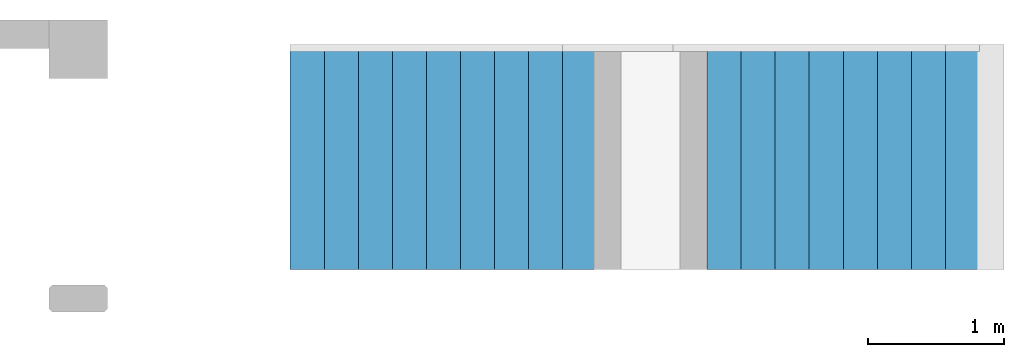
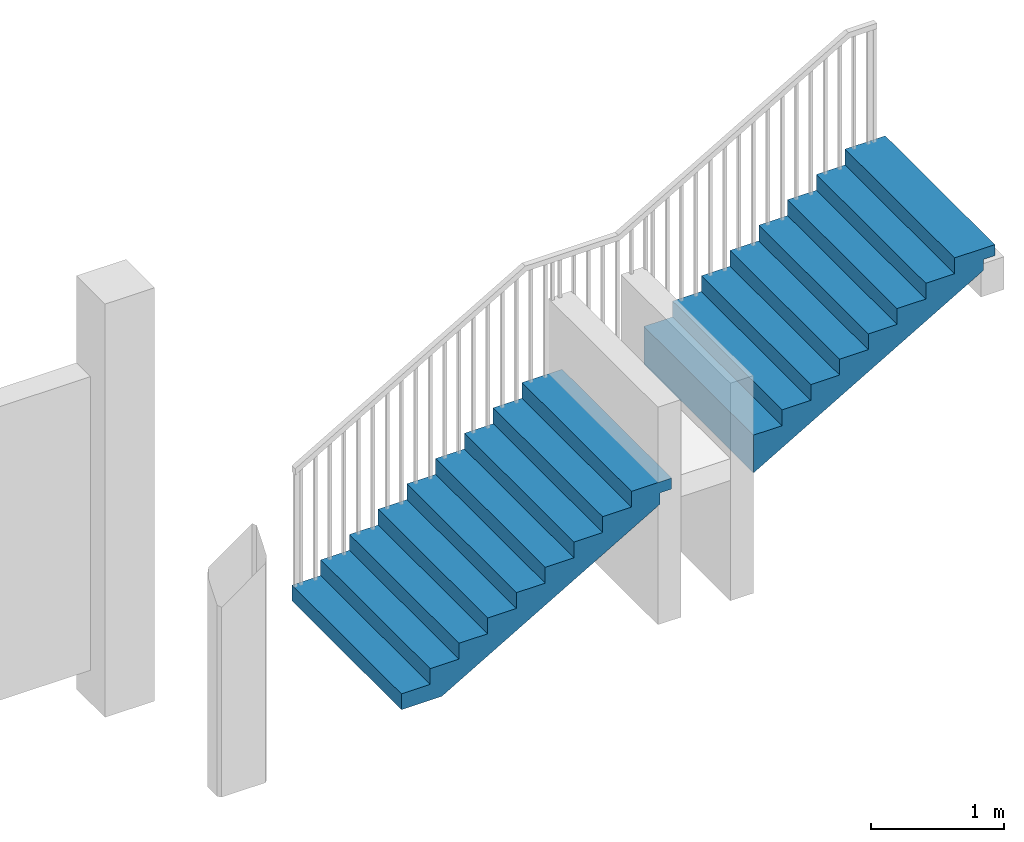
# One storey, part 2 of 3: 2 stair flights, 1 element without a shape of its own.
"""IFC2X3 building model written with IfcOpenShell, lengths in millimetres."""

from ifc_helpers import new_model, entity, si_unit, converted_unit, derived_unit, direction, frame, origin, place, context, subcontext, project, spatial, faceted_brep, material, type_object, element, aggregate, save


model = new_model("IFC2X3")

# Units and contexts
model_context = context("Model", 3, precision=0.01, world=origin(), true_north=direction((6.12303176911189e-17, 1.0)))
body_context = subcontext(model_context, "Body", "Model", "MODEL_VIEW")
ifc_project = project(units=[si_unit("LENGTHUNIT", "METRE", prefix="MILLI"), si_unit("AREAUNIT", "SQUARE_METRE"), si_unit("VOLUMEUNIT", "CUBIC_METRE"), converted_unit("PLANEANGLEUNIT", "DEGREE", entity("IfcRatioMeasure", 0.0174532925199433), si_unit("PLANEANGLEUNIT", "RADIAN"), dimensions=[0, 0, 0, 0, 0, 0, 0]), si_unit("MASSUNIT", "GRAM", prefix="KILO"), derived_unit("MASSDENSITYUNIT", [(si_unit("MASSUNIT", "GRAM", prefix="KILO"), 1), (si_unit("LENGTHUNIT", "METRE"), -3)]), derived_unit("MOMENTOFINERTIAUNIT", [(si_unit("LENGTHUNIT", "METRE"), 4)]), si_unit("TIMEUNIT", "SECOND"), si_unit("FREQUENCYUNIT", "HERTZ"), si_unit("THERMODYNAMICTEMPERATUREUNIT", "DEGREE_CELSIUS"), derived_unit("THERMALTRANSMITTANCEUNIT", [(si_unit("MASSUNIT", "GRAM", prefix="KILO"), 1), (si_unit("THERMODYNAMICTEMPERATUREUNIT", "KELVIN"), -1), (si_unit("TIMEUNIT", "SECOND"), -3)]), derived_unit("VOLUMETRICFLOWRATEUNIT", [(si_unit("LENGTHUNIT", "METRE"), 3), (si_unit("TIMEUNIT", "SECOND"), -1)]), si_unit("ELECTRICCURRENTUNIT", "AMPERE"), si_unit("ELECTRICVOLTAGEUNIT", "VOLT"), si_unit("POWERUNIT", "WATT"), si_unit("FORCEUNIT", "NEWTON", prefix="KILO"), si_unit("ILLUMINANCEUNIT", "LUX"), si_unit("LUMINOUSFLUXUNIT", "LUMEN"), si_unit("LUMINOUSINTENSITYUNIT", "CANDELA"), derived_unit("USERDEFINED", [(si_unit("MASSUNIT", "GRAM", prefix="KILO"), -1), (si_unit("LENGTHUNIT", "METRE"), -2), (si_unit("TIMEUNIT", "SECOND"), 3), (si_unit("LUMINOUSFLUXUNIT", "LUMEN"), 1)]), derived_unit("LINEARVELOCITYUNIT", [(si_unit("LENGTHUNIT", "METRE"), 1), (si_unit("TIMEUNIT", "SECOND"), -1)]), si_unit("PRESSUREUNIT", "PASCAL"), derived_unit("USERDEFINED", [(si_unit("LENGTHUNIT", "METRE"), -2), (si_unit("MASSUNIT", "GRAM", prefix="KILO"), 1), (si_unit("TIMEUNIT", "SECOND"), -2)]), derived_unit("LINEARFORCEUNIT", [(si_unit("MASSUNIT", "GRAM", prefix="KILO"), 1), (si_unit("LENGTHUNIT", "METRE"), 1), (si_unit("TIMEUNIT", "SECOND"), -2), (si_unit("LENGTHUNIT", "METRE"), -1)]), derived_unit("PLANARFORCEUNIT", [(si_unit("MASSUNIT", "GRAM", prefix="KILO"), 1), (si_unit("LENGTHUNIT", "METRE"), 1), (si_unit("TIMEUNIT", "SECOND"), -2), (si_unit("LENGTHUNIT", "METRE"), -2)])], contexts=[model_context])

# Site, building, storey
site_placement = place(None, frame((10627.5135316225, 21939.0796949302, 0.0)))
site = spatial("IfcSite", under=ifc_project, at=site_placement, Name="Default", CompositionType="ELEMENT")
building_placement = place(site_placement, origin())
building = spatial("IfcBuilding", under=site, at=building_placement, CompositionType="ELEMENT")
storey_placement = place(building_placement, frame((0.0, 0.0, -3500.0)))
storey = spatial("IfcBuildingStorey", under=building, at=storey_placement, Name="R-1", CompositionType="ELEMENT", Elevation=-3500.0)

# Stair, stair flights
stair_placement = place(storey_placement, origin())
stair = element("IfcStair", 1, at=stair_placement, inside=storey, Name="Precast Stair:Stair", ObjectType="Precast Stair:Precast_Stair", ShapeType="TWO_STRAIGHT_RUN_STAIR")
ifc_material = material(Name="Concrete, Cast-in-Place gray")
stair_flight_type_1 = type_object("IfcStairFlightType", Name="Monolithic Run:1mm_Tread-175mm_Depth", PredefinedType="STRAIGHT")
stair_flight_1_placement = place(stair_placement, frame((-7242.51353162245, 16695.9203050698, 0.0)))
stair_flight_1 = element("IfcStairFlight", 2, at=stair_flight_1_placement, type_object=stair_flight_type_1, material=ifc_material, Name="Precast Stair:Stair:496050 Run 1", ObjectType="Monolithic Run:1mm_Tread-175mm_Depth", NumberOfRiser=9, NumberOfTreads=9, RiserHeight=0.476686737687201, TreadLength=0.820209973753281, context=body_context, shape_type="Brep", body=[
    faceted_brep([(250.0, 1650.0, 145.294117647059), (0.0, 1650.0, 145.294117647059), (0.0, 0.0, 145.294117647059), (250.0, 0.0, 145.294117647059), (250.0, 1650.0, 144.294117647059), (250.0, 0.0, 144.294117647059), (0.0, 0.0, 144.294117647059), (0.0, 1650.0, 144.294117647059)], [[[0, 1, 2, 3]], [[4, 5, 6, 7]], [[1, 0, 4, 7]], [[2, 1, 7, 6]], [[3, 2, 6, 5]], [[0, 3, 5, 4]]]),
    faceted_brep([(500.0, 1650.0, 290.588235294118), (250.0, 1650.0, 290.588235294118), (250.0, 0.0, 290.588235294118), (500.0, 0.0, 290.588235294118), (500.0, 1650.0, 289.588235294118), (500.0, 0.0, 289.588235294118), (250.0, 0.0, 289.588235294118), (250.0, 1650.0, 289.588235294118)], [[[0, 1, 2, 3]], [[4, 5, 6, 7]], [[1, 0, 4, 7]], [[2, 1, 7, 6]], [[3, 2, 6, 5]], [[0, 3, 5, 4]]]),
    faceted_brep([(750.0, 1650.0, 435.882352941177), (500.0, 1650.0, 435.882352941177), (500.0, 0.0, 435.882352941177), (750.0, 0.0, 435.882352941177), (750.0, 1650.0, 434.882352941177), (750.0, 0.0, 434.882352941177), (500.0, 0.0, 434.882352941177), (500.0, 1650.0, 434.882352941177)], [[[0, 1, 2, 3]], [[4, 5, 6, 7]], [[1, 0, 4, 7]], [[2, 1, 7, 6]], [[3, 2, 6, 5]], [[0, 3, 5, 4]]]),
    faceted_brep([(1000.0, 1650.0, 581.176470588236), (750.0, 1650.0, 581.176470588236), (750.0, 0.0, 581.176470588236), (1000.0, 0.0, 581.176470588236), (1000.0, 1650.0, 580.176470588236), (1000.0, 0.0, 580.176470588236), (750.0, 0.0, 580.176470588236), (750.0, 1650.0, 580.176470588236)], [[[0, 1, 2, 3]], [[4, 5, 6, 7]], [[1, 0, 4, 7]], [[2, 1, 7, 6]], [[3, 2, 6, 5]], [[0, 3, 5, 4]]]),
    faceted_brep([(1250.0, 1650.0, 726.470588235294), (1000.0, 1650.0, 726.470588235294), (1000.0, 0.0, 726.470588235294), (1250.0, 0.0, 726.470588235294), (1250.0, 1650.0, 725.470588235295), (1250.0, 0.0, 725.470588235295), (1000.0, 0.0, 725.470588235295), (1000.0, 1650.0, 725.470588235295)], [[[0, 1, 2, 3]], [[4, 5, 6, 7]], [[1, 0, 4, 7]], [[2, 1, 7, 6]], [[3, 2, 6, 5]], [[0, 3, 5, 4]]]),
    faceted_brep([(1500.0, 1650.0, 871.764705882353), (1250.0, 1650.0, 871.764705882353), (1250.0, 0.0, 871.764705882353), (1500.0, 0.0, 871.764705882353), (1500.0, 1650.0, 870.764705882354), (1500.0, 0.0, 870.764705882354), (1250.0, 0.0, 870.764705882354), (1250.0, 1650.0, 870.764705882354)], [[[0, 1, 2, 3]], [[4, 5, 6, 7]], [[1, 0, 4, 7]], [[2, 1, 7, 6]], [[3, 2, 6, 5]], [[0, 3, 5, 4]]]),
    faceted_brep([(1750.0, 1650.0, 1017.05882352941), (1500.0, 1650.0, 1017.05882352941), (1500.0, 0.0, 1017.05882352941), (1750.0, 0.0, 1017.05882352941), (1750.0, 1650.0, 1016.05882352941), (1750.0, 0.0, 1016.05882352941), (1500.0, 0.0, 1016.05882352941), (1500.0, 1650.0, 1016.05882352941)], [[[0, 1, 2, 3]], [[4, 5, 6, 7]], [[1, 0, 4, 7]], [[2, 1, 7, 6]], [[3, 2, 6, 5]], [[0, 3, 5, 4]]]),
    faceted_brep([(2000.0, 1650.0, 1162.35294117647), (1750.0, 1650.0, 1162.35294117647), (1750.0, 0.0, 1162.35294117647), (2000.0, 0.0, 1162.35294117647), (2000.0, 1650.0, 1161.35294117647), (2000.0, 0.0, 1161.35294117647), (1750.0, 0.0, 1161.35294117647), (1750.0, 1650.0, 1161.35294117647)], [[[0, 1, 2, 3]], [[4, 5, 6, 7]], [[1, 0, 4, 7]], [[2, 1, 7, 6]], [[3, 2, 6, 5]], [[0, 3, 5, 4]]]),
    faceted_brep([(2350.0, 1650.0, 1307.64705882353), (2250.0, 1650.0, 1307.64705882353), (2000.0, 1650.0, 1307.64705882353), (2000.0, 0.0, 1307.64705882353), (2250.0, 0.0, 1307.64705882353), (2350.0, 0.0, 1307.64705882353), (2350.0, 1650.0, 1306.64705882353), (2350.0, 0.0, 1306.64705882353), (2250.0, 0.0, 1306.64705882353), (2000.0, 0.0, 1306.64705882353), (2000.0, 1650.0, 1306.64705882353), (2250.0, 1650.0, 1306.64705882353)], [[[0, 1, 2, 3, 4, 5]], [[6, 7, 8, 9, 10, 11]], [[1, 0, 6, 11]], [[3, 2, 10, 9]], [[4, 3, 9, 8]], [[5, 4, 8, 7]], [[0, 5, 7, 6]], [[2, 1, 11, 10]]]),
    faceted_brep([(250.0, 1650.0, 144.294117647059), (0.0, 1650.0, 144.294117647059), (0.0, 0.0, 144.294117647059), (250.0, 0.0, 144.294117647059), (250.0, 1650.0, 0.0), (0.0, 1650.0, 0.0), (0.0, 0.0, 0.0), (250.0, 0.0, 0.0), (500.0, 1650.0, 289.588235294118), (250.0, 1650.0, 289.588235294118), (250.0, 0.0, 289.588235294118), (500.0, 0.0, 289.588235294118), (500.0, 1650.0, 87.1800178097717), (349.993896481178, 1650.0, 0.0), (349.993896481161, 0.0, 0.0), (500.0, 0.0, 87.1800178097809), (750.0, 1650.0, 434.882352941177), (500.0, 1650.0, 434.882352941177), (500.0, 0.0, 434.882352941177), (750.0, 0.0, 434.882352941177), (750.0, 1650.0, 232.474135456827), (750.0, 0.0, 232.474135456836), (1000.0, 1650.0, 580.176470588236), (750.0, 1650.0, 580.176470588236), (750.0, 0.0, 580.176470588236), (1000.0, 0.0, 580.176470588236), (1000.0, 1650.0, 377.768253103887), (1000.0, 0.0, 377.768253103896), (1250.0, 1650.0, 725.470588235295), (1000.0, 1650.0, 725.470588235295), (1000.0, 0.0, 725.470588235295), (1250.0, 0.0, 725.470588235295), (1250.0, 1650.0, 523.06237075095), (1250.0, 0.0, 523.062370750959), (1500.0, 1650.0, 870.764705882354), (1250.0, 1650.0, 870.764705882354), (1250.0, 0.0, 870.764705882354), (1500.0, 0.0, 870.764705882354), (1500.0, 1650.0, 668.356488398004), (1500.0, 0.0, 668.356488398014), (1750.0, 1650.0, 1016.05882352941), (1500.0, 1650.0, 1016.05882352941), (1500.0, 0.0, 1016.05882352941), (1750.0, 0.0, 1016.05882352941), (1750.0, 1650.0, 813.650606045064), (1750.0, 0.0, 813.650606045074), (2000.0, 1650.0, 1161.35294117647), (1750.0, 1650.0, 1161.35294117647), (1750.0, 0.0, 1161.35294117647), (2000.0, 0.0, 1161.35294117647), (2000.0, 1650.0, 958.944723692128), (2000.0, 0.0, 958.944723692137), (2250.0, 1650.0, 1104.23884133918), (2250.0, 0.0, 1104.23884133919), (2350.0, 0.0, 1206.64705882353), (2250.0, 0.0, 1206.64705882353), (2250.0, 1650.0, 1206.64705882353), (2350.0, 1650.0, 1206.64705882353), (2350.0, 1650.0, 1306.64705882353), (2350.0, 0.0, 1306.64705882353), (2000.0, 1650.0, 1306.64705882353), (2000.0, 0.0, 1306.64705882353)], [[[0, 1, 2, 3]], [[1, 0, 4, 5]], [[2, 1, 5, 6]], [[3, 2, 6, 7]], [[8, 9, 10, 11]], [[4, 0, 9, 8, 12, 13]], [[0, 3, 10, 9]], [[3, 7, 14, 15, 11, 10]], [[16, 17, 18, 19]], [[17, 16, 20, 12, 8]], [[8, 11, 18, 17]], [[19, 18, 11, 15, 21]], [[22, 23, 24, 25]], [[23, 22, 26, 20, 16]], [[16, 19, 24, 23]], [[25, 24, 19, 21, 27]], [[28, 29, 30, 31]], [[29, 28, 32, 26, 22]], [[22, 25, 30, 29]], [[31, 30, 25, 27, 33]], [[34, 35, 36, 37]], [[35, 34, 38, 32, 28]], [[28, 31, 36, 35]], [[37, 36, 31, 33, 39]], [[40, 41, 42, 43]], [[41, 40, 44, 38, 34]], [[34, 37, 42, 41]], [[43, 42, 37, 39, 45]], [[46, 47, 48, 49]], [[47, 46, 50, 44, 40]], [[40, 43, 48, 47]], [[49, 48, 43, 45, 51]], [[5, 4, 13, 14, 7, 6]], [[14, 13, 12, 20, 26, 32, 38, 44, 50, 52, 53, 51, 45, 39, 33, 27, 21, 15]], [[54, 55, 56, 57]], [[54, 57, 58, 59]], [[60, 61, 59, 58]], [[60, 58, 57, 56, 52, 50, 46]], [[46, 49, 61, 60]], [[59, 61, 49, 51, 53, 55, 54]], [[53, 52, 56, 55]]]),
])
stair_flight_type_2 = type_object("IfcStairFlightType", Name="Monolithic Run:1mm_Tread-175mm_Depth", PredefinedType="STRAIGHT")
stair_flight_2_placement = place(stair_placement, frame((-4182.51353162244, 16695.9203050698, 0.0)))
stair_flight_2 = element("IfcStairFlight", 3, at=stair_flight_2_placement, type_object=stair_flight_type_2, material=ifc_material, Name="Precast Stair:Stair:496050 Run 2", ObjectType="Monolithic Run:1mm_Tread-175mm_Depth", NumberOfRiser=8, NumberOfTreads=8, RiserHeight=0.476686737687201, TreadLength=0.820209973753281, context=body_context, shape_type="Brep", body=[
    faceted_brep([(250.0, 1650.0, 1452.94117647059), (0.0, 1650.0, 1452.94117647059), (0.0, 0.0, 1452.94117647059), (250.0, 0.0, 1452.94117647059), (250.0, 1650.0, 1451.94117647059), (250.0, 0.0, 1451.94117647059), (0.0, 0.0, 1451.94117647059), (0.0, 1650.0, 1451.94117647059)], [[[0, 1, 2, 3]], [[4, 5, 6, 7]], [[1, 0, 4, 7]], [[2, 1, 7, 6]], [[3, 2, 6, 5]], [[0, 3, 5, 4]]]),
    faceted_brep([(500.0, 1650.0, 1598.23529411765), (250.0, 1650.0, 1598.23529411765), (250.0, 0.0, 1598.23529411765), (500.0, 0.0, 1598.23529411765), (500.0, 1650.0, 1597.23529411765), (500.0, 0.0, 1597.23529411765), (250.0, 0.0, 1597.23529411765), (250.0, 1650.0, 1597.23529411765)], [[[0, 1, 2, 3]], [[4, 5, 6, 7]], [[1, 0, 4, 7]], [[2, 1, 7, 6]], [[3, 2, 6, 5]], [[0, 3, 5, 4]]]),
    faceted_brep([(750.0, 1650.0, 1743.52941176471), (500.0, 1650.0, 1743.52941176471), (500.0, 0.0, 1743.52941176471), (750.0, 0.0, 1743.52941176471), (750.0, 1650.0, 1742.52941176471), (750.0, 0.0, 1742.52941176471), (500.0, 0.0, 1742.52941176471), (500.0, 1650.0, 1742.52941176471)], [[[0, 1, 2, 3]], [[4, 5, 6, 7]], [[1, 0, 4, 7]], [[2, 1, 7, 6]], [[3, 2, 6, 5]], [[0, 3, 5, 4]]]),
    faceted_brep([(1000.0, 1650.0, 1888.82352941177), (750.0, 1650.0, 1888.82352941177), (750.0, 0.0, 1888.82352941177), (1000.0, 0.0, 1888.82352941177), (1000.0, 1650.0, 1887.82352941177), (1000.0, 0.0, 1887.82352941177), (750.0, 0.0, 1887.82352941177), (750.0, 1650.0, 1887.82352941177)], [[[0, 1, 2, 3]], [[4, 5, 6, 7]], [[1, 0, 4, 7]], [[2, 1, 7, 6]], [[3, 2, 6, 5]], [[0, 3, 5, 4]]]),
    faceted_brep([(1250.0, 1650.0, 2034.11764705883), (1000.0, 1650.0, 2034.11764705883), (1000.0, 0.0, 2034.11764705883), (1250.0, 0.0, 2034.11764705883), (1250.0, 1650.0, 2033.11764705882), (1250.0, 0.0, 2033.11764705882), (1000.0, 0.0, 2033.11764705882), (1000.0, 1650.0, 2033.11764705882)], [[[0, 1, 2, 3]], [[4, 5, 6, 7]], [[1, 0, 4, 7]], [[2, 1, 7, 6]], [[3, 2, 6, 5]], [[0, 3, 5, 4]]]),
    faceted_brep([(1500.0, 1650.0, 2179.41176470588), (1250.0, 1650.0, 2179.41176470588), (1250.0, 0.0, 2179.41176470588), (1500.0, 0.0, 2179.41176470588), (1500.0, 1650.0, 2178.41176470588), (1500.0, 0.0, 2178.41176470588), (1250.0, 0.0, 2178.41176470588), (1250.0, 1650.0, 2178.41176470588)], [[[0, 1, 2, 3]], [[4, 5, 6, 7]], [[1, 0, 4, 7]], [[2, 1, 7, 6]], [[3, 2, 6, 5]], [[0, 3, 5, 4]]]),
    faceted_brep([(1750.0, 1650.0, 2324.70588235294), (1500.0, 1650.0, 2324.70588235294), (1500.0, 0.0, 2324.70588235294), (1750.0, 0.0, 2324.70588235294), (1750.0, 1650.0, 2323.70588235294), (1750.0, 0.0, 2323.70588235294), (1500.0, 0.0, 2323.70588235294), (1500.0, 1650.0, 2323.70588235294)], [[[0, 1, 2, 3]], [[4, 5, 6, 7]], [[1, 0, 4, 7]], [[2, 1, 7, 6]], [[3, 2, 6, 5]], [[0, 3, 5, 4]]]),
    faceted_brep([(2100.0, 1650.0, 2470.0), (1750.0, 1650.0, 2470.0), (1750.0, 0.0, 2470.0), (2100.0, 0.0, 2470.0), (2100.0, 1650.0, 2469.0), (2100.0, 0.0, 2469.0), (1750.0, 0.0, 2469.0), (1750.0, 1650.0, 2469.0)], [[[0, 1, 2, 3]], [[4, 5, 6, 7]], [[1, 0, 4, 7]], [[2, 1, 7, 6]], [[3, 2, 6, 5]], [[0, 3, 5, 4]]]),
    faceted_brep([(0.0, 1650.0, 1451.94117647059), (0.0, 0.0, 1451.94117647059), (4.14369405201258, 0.0, 1451.94117647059), (250.0, 0.0, 1451.94117647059), (250.0, 1650.0, 1451.94117647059), (4.14369405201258, 1650.0, 1451.94117647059), (250.0, 1650.0, 1249.53295898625), (4.14369405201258, 1650.0, 1106.64705882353), (0.0, 1650.0, 1106.64705882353), (0.0, 0.0, 1106.64705882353), (4.14369405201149, 0.0, 1106.64705882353), (250.0, 0.0, 1249.53295898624), (500.0, 1650.0, 1597.23529411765), (250.0, 1650.0, 1597.23529411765), (250.0, 0.0, 1597.23529411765), (500.0, 0.0, 1597.23529411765), (500.0, 1650.0, 1394.8270766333), (500.0, 0.0, 1394.82707663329), (750.0, 1650.0, 1742.52941176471), (500.0, 1650.0, 1742.52941176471), (500.0, 0.0, 1742.52941176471), (750.0, 0.0, 1742.52941176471), (750.0, 1650.0, 1540.12119428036), (750.0, 0.0, 1540.12119428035), (1000.0, 1650.0, 1887.82352941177), (750.0, 1650.0, 1887.82352941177), (750.0, 0.0, 1887.82352941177), (1000.0, 0.0, 1887.82352941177), (1000.0, 1650.0, 1685.41531192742), (1000.0, 0.0, 1685.41531192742), (1250.0, 1650.0, 2033.11764705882), (1000.0, 1650.0, 2033.11764705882), (1000.0, 0.0, 2033.11764705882), (1250.0, 0.0, 2033.11764705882), (1250.0, 1650.0, 1830.70942957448), (1250.0, 0.0, 1830.70942957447), (1500.0, 1650.0, 2178.41176470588), (1250.0, 1650.0, 2178.41176470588), (1250.0, 0.0, 2178.41176470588), (1500.0, 0.0, 2178.41176470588), (1500.0, 1650.0, 1976.00354722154), (1500.0, 0.0, 1976.00354722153), (1750.0, 1650.0, 2323.70588235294), (1500.0, 1650.0, 2323.70588235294), (1500.0, 0.0, 2323.70588235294), (1750.0, 0.0, 2323.70588235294), (1750.0, 1650.0, 2121.2976648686), (1750.0, 0.0, 2121.29766486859), (1750.0, 1650.0, 2469.0), (1750.0, 0.0, 2469.0), (2100.0, 0.0, 2469.0), (2100.0, 1650.0, 2469.0), (2100.0, 1650.0, 2369.0), (2000.0, 1650.0, 2369.0), (2000.0, 1650.0, 2266.59178251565), (2000.0, 0.0, 2266.59178251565), (2000.0, 0.0, 2369.0), (2100.0, 0.0, 2369.0)], [[[0, 1, 2, 3, 4, 5]], [[4, 6, 7, 8, 0, 5]], [[1, 0, 8, 9]], [[1, 9, 10, 11, 3, 2]], [[12, 13, 14, 15]], [[13, 12, 16, 6, 4]], [[14, 13, 4, 3]], [[15, 14, 3, 11, 17]], [[18, 19, 20, 21]], [[19, 18, 22, 16, 12]], [[20, 19, 12, 15]], [[21, 20, 15, 17, 23]], [[24, 25, 26, 27]], [[25, 24, 28, 22, 18]], [[26, 25, 18, 21]], [[27, 26, 21, 23, 29]], [[30, 31, 32, 33]], [[31, 30, 34, 28, 24]], [[32, 31, 24, 27]], [[33, 32, 27, 29, 35]], [[36, 37, 38, 39]], [[37, 36, 40, 34, 30]], [[38, 37, 30, 33]], [[39, 38, 33, 35, 41]], [[42, 43, 44, 45]], [[43, 42, 46, 40, 36]], [[44, 43, 36, 39]], [[45, 44, 39, 41, 47]], [[48, 49, 50, 51]], [[48, 51, 52, 53, 54, 46, 42]], [[49, 48, 42, 45]], [[50, 49, 45, 47, 55, 56, 57]], [[55, 54, 53, 56]], [[10, 7, 6, 16, 22, 28, 34, 40, 46, 54, 55, 47, 41, 35, 29, 23, 17, 11]], [[7, 10, 9, 8]], [[57, 56, 53, 52]], [[57, 52, 51, 50]]]),
])
aggregate(stair, [stair_flight_1, stair_flight_2])

save(model, "model.ifc")
